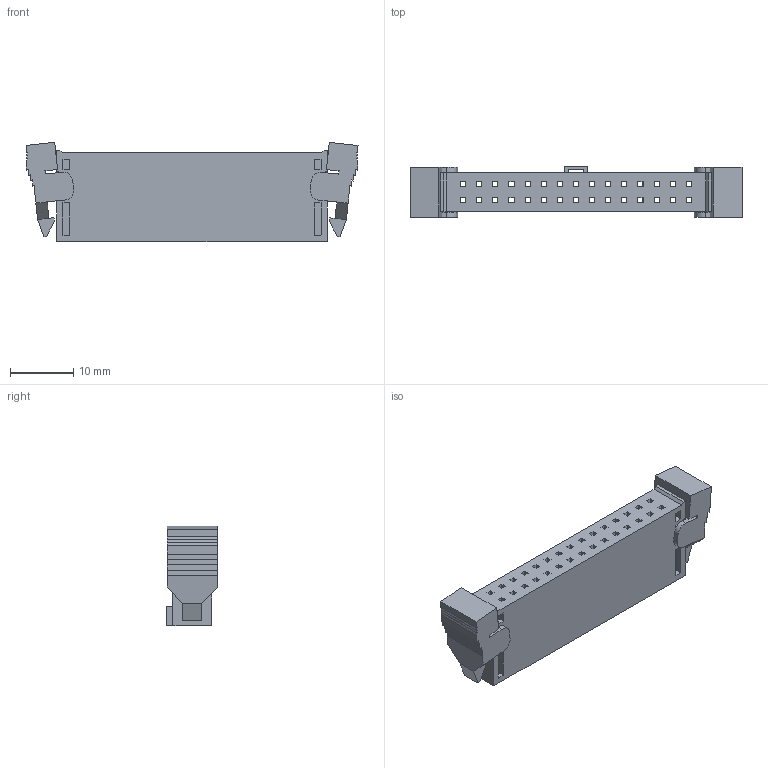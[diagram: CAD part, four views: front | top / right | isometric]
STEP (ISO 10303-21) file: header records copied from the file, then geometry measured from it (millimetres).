
FILE_DESCRIPTION(('CATIA V5 STEP Exchange'),'2;1');
FILE_NAME('Z:\3D文件\小黄（备用文件夹）\条形连接器-小黄\XG\2xNYG\HC-XG-2x15YG-05（2.54 双排 孔座 带锁扣-HCTL）.stp','2025-06-06T08:06:27+00:00',('none'),('none'),'CATIA Version 5 Release 20 GA (IN-10)','CATIA V5 STEP AP203','none');
FILE_SCHEMA(('CONFIG_CONTROL_DESIGN'));
Length unit declared in the file: millimetre
Products named in the file (1): 产品1
Assembly tree (3 placements, depth 2):
  产品1
    #58
    #10542  x2
Bounding box: 52.31 x 8 x 15.65 mm (x, y, z)
Volume: 3971.6 mm3; surface area: 4348.1 mm2
Topology: 3 solids, 3 shells, 518 faces, 1343 edges, 854 vertices
Faces by surface type: plane 490, cylinder 28
Entity records: 12363 total; most frequent: ORIENTED_EDGE 2352, CARTESIAN_POINT 2180, DIRECTION 1554, EDGE_CURVE 1176, VECTOR 1140, LINE 1140, VERTEX_POINT 744, EDGE_LOOP 544
